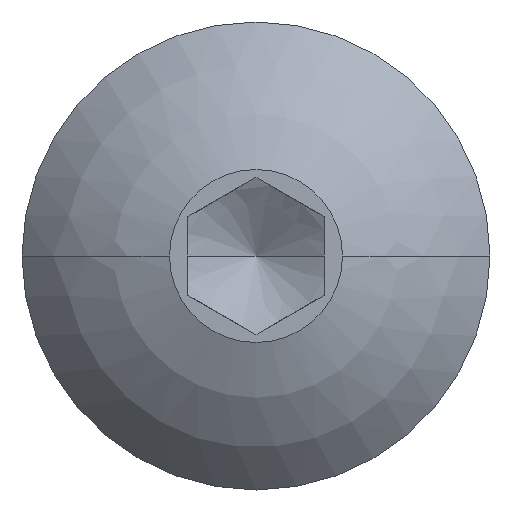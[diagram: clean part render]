
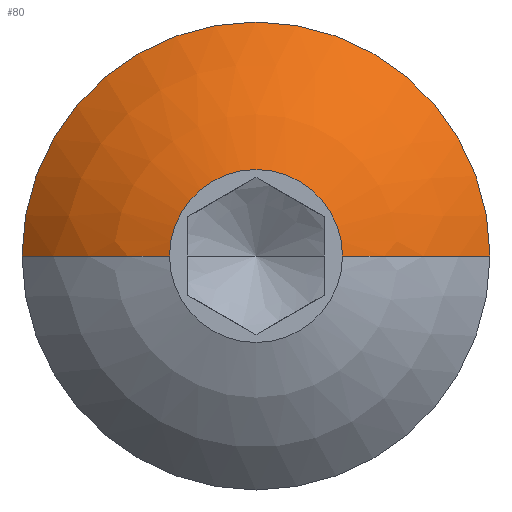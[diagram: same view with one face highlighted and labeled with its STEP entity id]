
A CAD part, left-side view. The second image highlights one B-rep face of the part: STEP entity #80.
In plain terms, the highlighted spherical face has radius 3.53 mm.
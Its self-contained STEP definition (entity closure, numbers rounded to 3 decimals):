
#66=SPHERICAL_SURFACE('',#489,3.53);
#80=ADVANCED_FACE('',(#107),#66,.T.);
#107=FACE_OUTER_BOUND('',#134,.F.);
#134=EDGE_LOOP('',(#169,#170,#171,#172));
#169=ORIENTED_EDGE('',*,*,#360,.T.);
#170=ORIENTED_EDGE('',*,*,#356,.T.);
#171=ORIENTED_EDGE('',*,*,#359,.T.);
#172=ORIENTED_EDGE('',*,*,#355,.T.);
#355=EDGE_CURVE('',#454,#453,#413,.T.);
#356=EDGE_CURVE('',#452,#451,#414,.T.);
#359=EDGE_CURVE('',#451,#454,#415,.T.);
#360=EDGE_CURVE('',#453,#452,#416,.T.);
#413=CIRCLE('',#476,2.705);
#414=CIRCLE('',#477,1.);
#415=CIRCLE('',#478,3.53);
#416=CIRCLE('',#479,3.53);
#451=VERTEX_POINT('',#678);
#452=VERTEX_POINT('',#679);
#453=VERTEX_POINT('',#680);
#454=VERTEX_POINT('',#681);
#476=AXIS2_PLACEMENT_3D('',#693,#536,#537);
#477=AXIS2_PLACEMENT_3D('',#694,#538,#539);
#478=AXIS2_PLACEMENT_3D('',#697,#542,#543);
#479=AXIS2_PLACEMENT_3D('',#698,#544,#545);
#489=AXIS2_PLACEMENT_3D('',#774,#582,#583);
#536=DIRECTION('',(1.,0.,0.));
#537=DIRECTION('',(0.,1.,0.));
#538=DIRECTION('',(-1.,0.,0.));
#539=DIRECTION('',(0.,-1.,0.));
#542=DIRECTION('',(0.,0.,-1.));
#543=DIRECTION('',(-0.959,0.283,0.));
#544=DIRECTION('',(0.,0.,-1.));
#545=DIRECTION('',(-0.642,-0.766,0.));
#582=DIRECTION('',(1.,0.,0.));
#583=DIRECTION('',(0.,1.,0.));
#678=CARTESIAN_POINT('',(16.588,-12.776,29.893));
#679=CARTESIAN_POINT('',(16.588,-14.775,29.893));
#680=CARTESIAN_POINT('',(17.706,-16.481,29.893));
#681=CARTESIAN_POINT('',(17.706,-11.07,29.893));
#693=CARTESIAN_POINT('',(17.706,-13.775,29.893));
#694=CARTESIAN_POINT('',(16.588,-13.775,29.893));
#697=CARTESIAN_POINT('',(19.974,-13.775,29.893));
#698=CARTESIAN_POINT('',(19.974,-13.775,29.893));
#774=CARTESIAN_POINT('',(19.974,-13.775,29.893));
